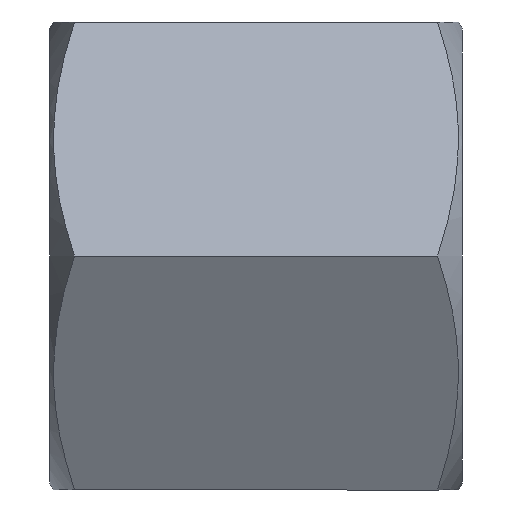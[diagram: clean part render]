
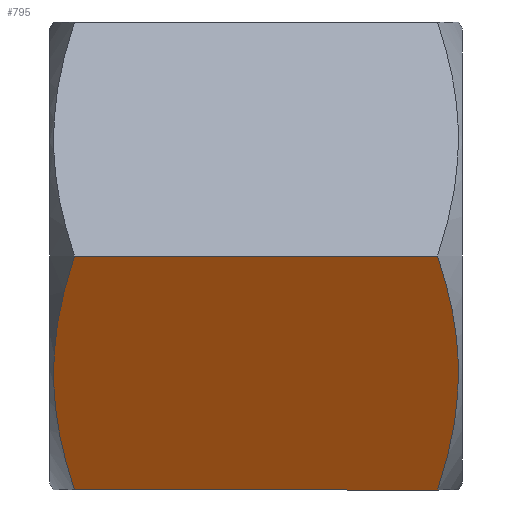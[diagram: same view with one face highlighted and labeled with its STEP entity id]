
A CAD part, front view. The second image highlights one B-rep face of the part: STEP entity #795.
In plain terms, the highlighted planar face has unit normal (0, -0.866, -0.5) as drawn and (-0.5, -0.866, 0) by its records, which use the part's own axes.
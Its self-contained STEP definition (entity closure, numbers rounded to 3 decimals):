
#168=CARTESIAN_POINT('',(-8.5,-4.907,6.596));
#169=VERTEX_POINT('',#168);
#183=CARTESIAN_POINT('',(0.,-9.815,6.596));
#184=VERTEX_POINT('',#183);
#185=CARTESIAN_POINT('',(0.,-9.815,6.596));
#186=CARTESIAN_POINT('',(-4.25,-7.361,8.013));
#187=CARTESIAN_POINT('',(-8.5,-4.907,6.596));
#195=(BOUNDED_CURVE()B_SPLINE_CURVE(2,(#185,#186,#187),.UNSPECIFIED.,.F.,.U.)B_SPLINE_CURVE_WITH_KNOTS((3,3),(2.941,14.172),.UNSPECIFIED.)CURVE()GEOMETRIC_REPRESENTATION_ITEM()RATIONAL_B_SPLINE_CURVE((1.114,1.286,1.114))REPRESENTATION_ITEM(''));
#196=EDGE_CURVE('',#184,#169,#195,.T.);
#259=CARTESIAN_POINT('',(0.,-9.815,-6.596));
#260=VERTEX_POINT('',#259);
#274=CARTESIAN_POINT('',(-8.5,-4.907,-6.596));
#275=VERTEX_POINT('',#274);
#276=CARTESIAN_POINT('',(-8.5,-4.907,-6.596));
#277=CARTESIAN_POINT('',(-4.25,-7.361,-8.013));
#278=CARTESIAN_POINT('',(0.,-9.815,-6.596));
#286=(BOUNDED_CURVE()B_SPLINE_CURVE(2,(#276,#277,#278),.UNSPECIFIED.,.F.,.U.)B_SPLINE_CURVE_WITH_KNOTS((3,3),(2.941,14.172),.UNSPECIFIED.)CURVE()GEOMETRIC_REPRESENTATION_ITEM()RATIONAL_B_SPLINE_CURVE((1.114,1.286,1.114))REPRESENTATION_ITEM(''));
#287=EDGE_CURVE('',#275,#260,#286,.T.);
#745=CARTESIAN_POINT('',(-8.5,-4.907,6.596));
#746=DIRECTION('',(0.0,0.0,-1.0));
#747=VECTOR('',#746,13.193);
#748=LINE('',#745,#747);
#749=EDGE_CURVE('',#169,#275,#748,.T.);
#779=CARTESIAN_POINT('',(-8.5,-4.907,0.0));
#780=DIRECTION('',(-0.5,-0.866,0.0));
#781=DIRECTION('',(0.0,0.0,-1.0));
#782=AXIS2_PLACEMENT_3D('',#779,#780,#781);
#783=PLANE('',#782);
#784=ORIENTED_EDGE('',*,*,#287,.T.);
#785=CARTESIAN_POINT('',(0.,-9.815,-6.596));
#786=DIRECTION('',(0.0,0.0,1.0));
#787=VECTOR('',#786,13.193);
#788=LINE('',#785,#787);
#789=EDGE_CURVE('',#260,#184,#788,.T.);
#790=ORIENTED_EDGE('',*,*,#789,.T.);
#791=ORIENTED_EDGE('',*,*,#196,.T.);
#792=ORIENTED_EDGE('',*,*,#749,.T.);
#793=EDGE_LOOP('',(#784,#790,#791,#792));
#794=FACE_OUTER_BOUND('',#793,.T.);
#795=ADVANCED_FACE('',(#794),#783,.T.);
